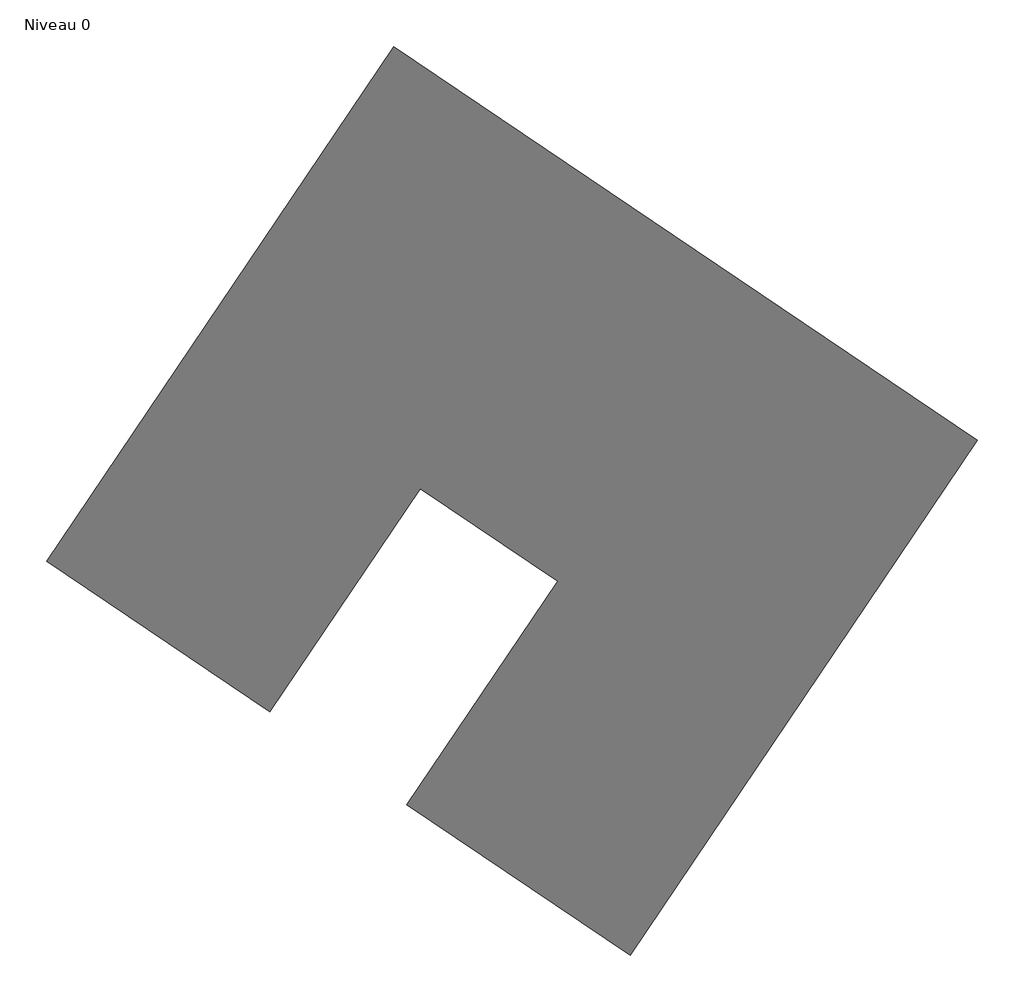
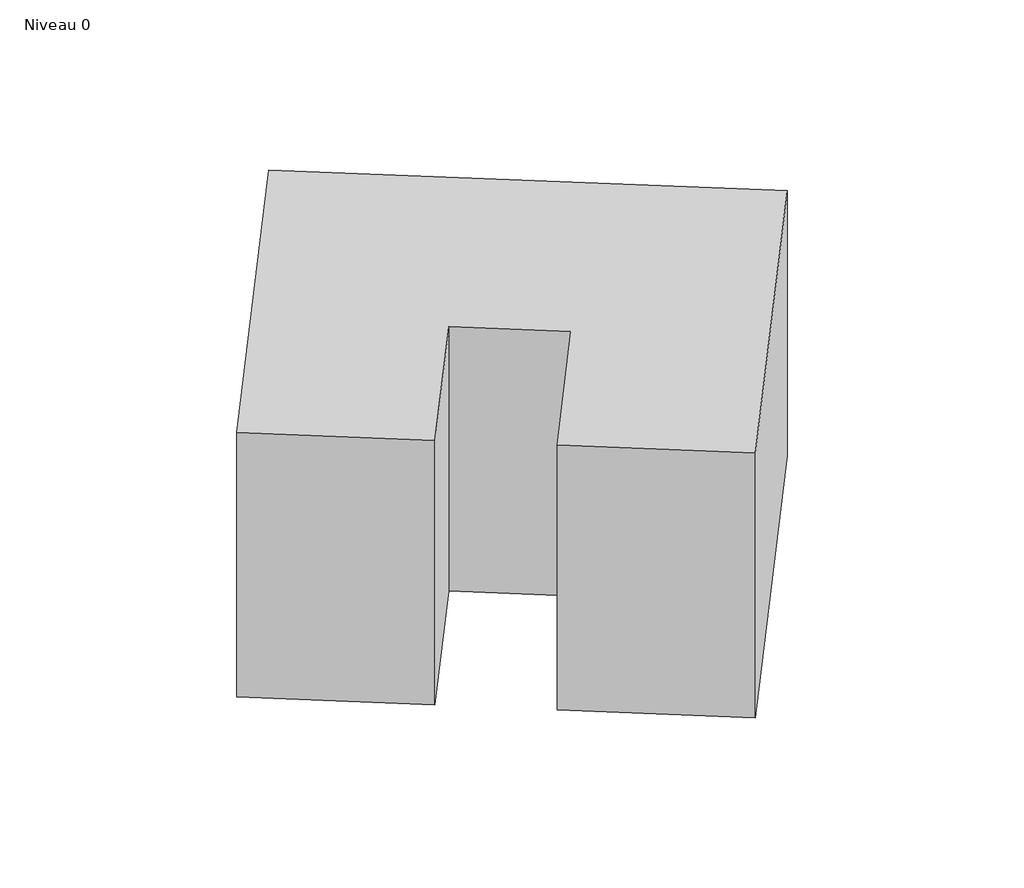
# One storey: 1 proxy.
"""IFC4 building model written with IfcOpenShell, lengths in millimetres."""

import ifcopenshell
import ifcopenshell.guid

model = None  # the IFC model being written
_history = None  # IfcOwnerHistory: only IFC2X3 demands one
_inside = {}  # id of a spatial element -> (the spatial element, [elements in it])
_under = {}  # id of a project, library or spatial element -> (it, [spatial elements below it])
_declared = {}  # id of a project -> (the project, [libraries it declares])
_typed = {}  # id of a type object -> (the type object, [elements of that type])
_made_of = {}  # id of a material, layer set ... -> (it, [elements and type objects made of it])


def new_model(schema):
    """Start an empty IFC model of exactly this schema.

    Asked for "IFC4X3", IfcOpenShell would pick the latest addendum, in which some entities
    have other attributes; the version numbers below select the first issue.
    IFC2X3 requires an IfcOwnerHistory on every rooted entity: one is made here for all.
    """
    global model, _history
    if schema == "IFC4X3":
        model = ifcopenshell.file(schema_version=(4, 3, 0, 0))
    else:
        model = ifcopenshell.file(schema=schema)
    _inside.clear()
    _under.clear()
    _declared.clear()
    _typed.clear()
    _made_of.clear()
    _history = None
    if model.schema == "IFC2X3":
        org = make("IfcOrganization", Name="unknown")
        user = make(
            "IfcPersonAndOrganization",
            ThePerson=make("IfcPerson", FamilyName="unknown"),
            TheOrganization=org,
        )
        app = make(
            "IfcApplication",
            ApplicationDeveloper=org,
            Version="unknown",
            ApplicationFullName="unknown",
            ApplicationIdentifier="unknown",
        )
        _history = make(
            "IfcOwnerHistory",
            OwningUser=user,
            OwningApplication=app,
            ChangeAction="ADDED",
            CreationDate=0,
        )
    return model


def make(cls, **values):
    """One entity of the class cls with the attributes given. An attribute that is None is left unset."""
    return model.create_entity(
        cls, **{name: value for name, value in values.items() if value is not None}
    )


def rooted(cls, **values):
    """An entity with a GlobalId (a new one), such as an element, a storey or a relation."""
    return make(cls, GlobalId=ifcopenshell.guid.new(), OwnerHistory=_history, **values)


def si_unit(unit_type, name, prefix=None):
    """IfcSIUnit, for example si_unit("LENGTHUNIT", "METRE", prefix="MILLI")."""
    return make("IfcSIUnit", UnitType=unit_type, Prefix=prefix, Name=name)


def assignment(units):
    """IfcUnitAssignment: the units of a project."""
    return None if units is None else make("IfcUnitAssignment", Units=units)


def point(xyz):
    """IfcCartesianPoint."""
    return None if xyz is None else make("IfcCartesianPoint", Coordinates=xyz)


def direction(xyz):
    """IfcDirection."""
    return None if xyz is None else make("IfcDirection", DirectionRatios=xyz)


def frame(location, z_axis=None, x_axis=None):
    """IfcAxis2Placement3D, a coordinate frame: its origin and axes. An axis left out is left unset."""
    return make(
        "IfcAxis2Placement3D",
        Location=point(location),
        Axis=direction(z_axis),
        RefDirection=direction(x_axis),
    )


def origin():
    """The frame at (0, 0, 0) with its axes left unset."""
    return frame((0.0, 0.0, 0.0))


def origin_with_axes():
    """The frame at (0, 0, 0) with the z axis (0, 0, 1) and the x axis (1, 0, 0) written out."""
    return frame((0.0, 0.0, 0.0), z_axis=(0.0, 0.0, 1.0), x_axis=(1.0, 0.0, 0.0))


def place(relative_to, where):
    """IfcLocalPlacement: puts the frame where relative to a parent placement (None: the world)."""
    return make(
        "IfcLocalPlacement", PlacementRelTo=relative_to, RelativePlacement=where
    )


def context(
    kind, dimensions, precision=None, world=None, true_north=None, identifier=None
):
    """IfcGeometricRepresentationContext, for example the 3D "Model" context."""
    return make(
        "IfcGeometricRepresentationContext",
        ContextIdentifier=identifier,
        ContextType=kind,
        CoordinateSpaceDimension=dimensions,
        Precision=precision,
        WorldCoordinateSystem=world,
        TrueNorth=true_north,
    )


def project(units=None, contexts=None):
    """IfcProject with its units and contexts."""
    return rooted(
        "IfcProject",
        Name="project",
        RepresentationContexts=contexts,
        UnitsInContext=assignment(units),
    )


def spatial(cls, under=None, at=None, **own):
    """A site, building, storey or space (cls), placed at a placement, below another one or the project."""
    s = rooted(cls, ObjectPlacement=at, **own)
    if under is not None:
        _under.setdefault(under.id(), (under, []))[1].append(s)
    return s


def polyline(points):
    """IfcPolyline through the points."""
    return make("IfcPolyline", Points=[point(p) for p in points])


def outline(outer, holes=None, kind="AREA"):
    """IfcArbitraryClosedProfileDef: a profile drawn as a closed curve; with holes, ...WithVoids."""
    if holes is None:
        return make("IfcArbitraryClosedProfileDef", ProfileType=kind, OuterCurve=outer)
    return make(
        "IfcArbitraryProfileDefWithVoids",
        ProfileType=kind,
        OuterCurve=outer,
        InnerCurves=holes,
    )


def extrude(swept, where, along, depth):
    """IfcExtrudedAreaSolid: the profile swept, set in the frame where, extruded along a direction by depth."""
    return make(
        "IfcExtrudedAreaSolid",
        SweptArea=swept,
        Position=where,
        ExtrudedDirection=direction(along),
        Depth=depth,
    )


def shape(context_of_items, identifier, shape_type, items):
    """IfcShapeRepresentation: the items that make up one representation, for example the "Body"."""
    return make(
        "IfcShapeRepresentation",
        ContextOfItems=context_of_items,
        RepresentationIdentifier=identifier,
        RepresentationType=shape_type,
        Items=items,
    )


def made_of(thing, what):
    """Note that an element or type object is made of a material, layer set ...; save() writes the relation."""
    if what is not None:
        _made_of.setdefault(what.id(), (what, []))[1].append(thing)
    return thing


def element(
    cls,
    number,
    at=None,
    inside=None,
    cuts=None,
    type_object=None,
    material=None,
    context=None,
    identifier="Body",
    shape_type=None,
    held_by="IfcProductDefinitionShape",
    body=None,
    shapes=None,
    **own,
):
    """One element of the class cls, such as IfcWall. Its Tag is "e" and its number.

    at: its placement. inside: the storey or other place that contains it. cuts: it is an
    opening in that element (IfcRelVoidsElement). A single representation is given by context,
    identifier, shape_type and body (its items); several are given by shapes. held_by: the class
    of the entity that holds the representations. save() writes the other relations.
    """
    e = rooted(cls, Tag="e%d" % number, ObjectPlacement=at, **own)
    if body is not None:
        shapes = [shape(context, identifier, shape_type, body)]
    if shapes is not None:
        e.Representation = make(held_by, Representations=shapes)
    if inside is not None:
        _inside.setdefault(inside.id(), (inside, []))[1].append(e)
    if cuts is not None:
        rooted(
            "IfcRelVoidsElement", RelatingBuildingElement=cuts, RelatedOpeningElement=e
        )
    if type_object is not None:
        _typed.setdefault(type_object.id(), (type_object, []))[1].append(e)
    return made_of(e, material)


def aggregate(whole, parts):
    """IfcRelAggregates: a whole, such as a stair, and the parts it consists of."""
    return rooted("IfcRelAggregates", RelatingObject=whole, RelatedObjects=parts)


def save(model, path):
    """Write the relations noted so far, then the file.

    IfcRelAggregates (storeys below a building ...), IfcRelContainedInSpatialStructure (elements
    in a storey), IfcRelDefinesByType, IfcRelAssociatesMaterial and IfcRelDeclares: one each for
    every whole, place, type object, material and project.
    """
    for whole, parts in _under.values():
        aggregate(whole, parts)
    for where, things in _inside.values():
        rooted(
            "IfcRelContainedInSpatialStructure",
            RelatedElements=things,
            RelatingStructure=where,
        )
    for kind, things in _typed.values():
        rooted("IfcRelDefinesByType", RelatedObjects=things, RelatingType=kind)
    for what, things in _made_of.values():
        rooted("IfcRelAssociatesMaterial", RelatedObjects=things, RelatingMaterial=what)
    for by, libraries in _declared.values():
        rooted("IfcRelDeclares", RelatingContext=by, RelatedDefinitions=libraries)
    model.write(path)


model = new_model("IFC4")

# Units and contexts
model_context = context("Model", 3, world=origin())
ifc_project = project(units=[si_unit("LENGTHUNIT", "METRE", prefix="MILLI")], contexts=[model_context])

# Site, building, storey
site = spatial("IfcSite", under=ifc_project)
building = spatial("IfcBuilding", under=site)
storey = spatial("IfcBuildingStorey", under=building, Name="Niveau 0", Elevation=0.0)

# Proxy
placement = place(None, origin())
element("IfcBuildingElementProxy", 1, Name="PAF : PAF", ObjectType="PAF : PAF", at=placement, inside=storey, context=model_context, shape_type="SweptSolid", body=[
    extrude(outline(polyline([(11983.2042736, -117499.9465702), (26076.8430071, -127006.2259292), (17688.949455, -139441.7895175), (12300.2052334, -135807.035645), (15934.959106, -130418.2914233), (12618.8088157, -128181.5198095), (8984.0549432, -133570.2640311), (3595.3107216, -129935.5101585), (11983.2042736, -117499.9465702)])), origin_with_axes(), (0.0, 0.0, 1.0), 10565.0246334),
])

save(model, "model.ifc")
